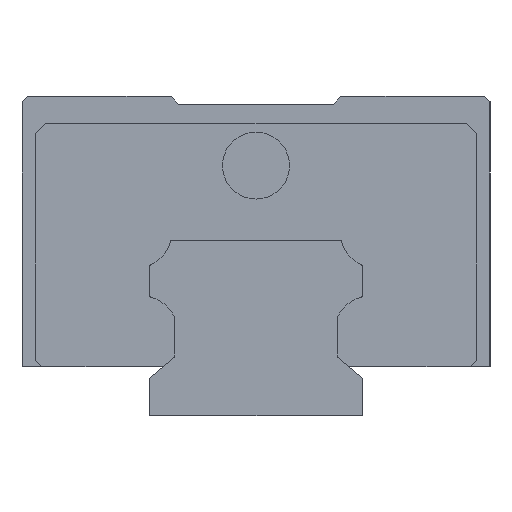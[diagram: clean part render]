
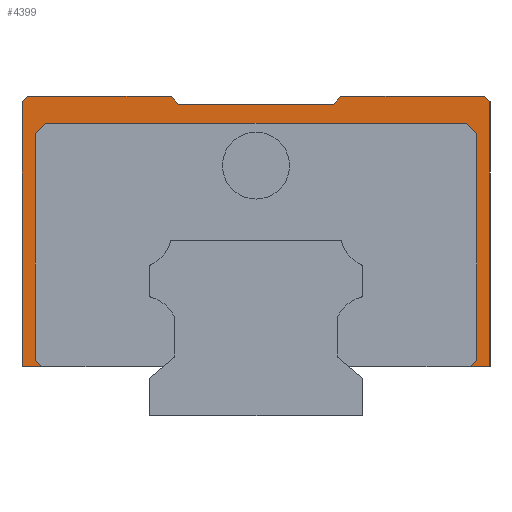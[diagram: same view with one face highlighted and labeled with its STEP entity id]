
A CAD part, left-side view. The second image highlights one B-rep face of the part: STEP entity #4399.
In plain terms, the highlighted planar face has unit normal (-1, 0, 0).
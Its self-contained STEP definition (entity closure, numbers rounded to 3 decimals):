
#124 = DIRECTION ( 'NONE',  ( 0., 1., 0. ) ) ;
#200 = VERTEX_POINT ( 'NONE', #16779 ) ;
#229 = EDGE_CURVE ( 'NONE', #6670, #1917, #14515, .T. ) ;
#322 = DIRECTION ( 'NONE',  ( 0., -0.707, 0.707 ) ) ;
#601 = EDGE_LOOP ( 'NONE', ( #8269, #6573, #3620, #10550, #2831, #867, #6719, #12214, #10202, #10435, #7963, #16190, #1478, #3635, #13454, #1068, #11840, #11712 ) ) ;
#768 = CARTESIAN_POINT ( 'NONE',  ( -39., 22., 4.6 ) ) ;
#823 = LINE ( 'NONE', #10128, #14748 ) ;
#859 = VECTOR ( 'NONE', #15611, 1000. ) ;
#867 = ORIENTED_EDGE ( 'NONE', *, *, #1002, .F. ) ;
#1002 = EDGE_CURVE ( 'NONE', #8223, #1917, #16275, .T. ) ;
#1068 = ORIENTED_EDGE ( 'NONE', *, *, #2108, .T. ) ;
#1089 = DIRECTION ( 'NONE',  ( 0., -1., 0. ) ) ;
#1117 = FACE_OUTER_BOUND ( 'NONE', #601, .T. ) ;
#1274 = DIRECTION ( 'NONE',  ( 0., -0.707, -0.707 ) ) ;
#1478 = ORIENTED_EDGE ( 'NONE', *, *, #3795, .F. ) ;
#1722 = DIRECTION ( 'NONE',  ( 0., 0., 1. ) ) ;
#1758 = CARTESIAN_POINT ( 'NONE',  ( -39., 22., 30. ) ) ;
#1881 = VERTEX_POINT ( 'NONE', #3126 ) ;
#1917 = VERTEX_POINT ( 'NONE', #3289 ) ;
#2108 = EDGE_CURVE ( 'NONE', #4734, #12921, #12150, .T. ) ;
#2136 = CARTESIAN_POINT ( 'NONE',  ( -39., 22., 30. ) ) ;
#2254 = EDGE_CURVE ( 'NONE', #4320, #11705, #10046, .T. ) ;
#2398 = VECTOR ( 'NONE', #7480, 1000. ) ;
#2831 = ORIENTED_EDGE ( 'NONE', *, *, #229, .T. ) ;
#3035 = DIRECTION ( 'NONE',  ( 0., 0.643, -0.766 ) ) ;
#3126 = CARTESIAN_POINT ( 'NONE',  ( -39., 21.5, 30. ) ) ;
#3249 = VECTOR ( 'NONE', #15703, 1000. ) ;
#3252 = LINE ( 'NONE', #4564, #8937 ) ;
#3289 = CARTESIAN_POINT ( 'NONE',  ( -39., -21.5, 30. ) ) ;
#3620 = ORIENTED_EDGE ( 'NONE', *, *, #16509, .F. ) ;
#3635 = ORIENTED_EDGE ( 'NONE', *, *, #16892, .T. ) ;
#3795 = EDGE_CURVE ( 'NONE', #13523, #4320, #4237, .T. ) ;
#3951 = LINE ( 'NONE', #10732, #11224 ) ;
#4024 = EDGE_CURVE ( 'NONE', #16532, #14875, #3951, .T. ) ;
#4237 = LINE ( 'NONE', #12059, #10113 ) ;
#4320 = VERTEX_POINT ( 'NONE', #768 ) ;
#4341 = VECTOR ( 'NONE', #11900, 1000. ) ;
#4399 = ADVANCED_FACE ( 'NONE', ( #1117 ), #12853, .F. ) ;
#4564 = CARTESIAN_POINT ( 'NONE',  ( -39., -20.75, 5.2 ) ) ;
#4734 = VERTEX_POINT ( 'NONE', #16927 ) ;
#5009 = LINE ( 'NONE', #10305, #859 ) ;
#5194 = LINE ( 'NONE', #10484, #13640 ) ;
#5461 = DIRECTION ( 'NONE',  ( 0., 1., 0. ) ) ;
#5509 = DIRECTION ( 'NONE',  ( 0., 0.707, 0.707 ) ) ;
#5970 = CARTESIAN_POINT ( 'NONE',  ( -39., -20.75, 5.2 ) ) ;
#6090 = LINE ( 'NONE', #16875, #2398 ) ;
#6130 = DIRECTION ( 'NONE',  ( 0., 0.643, 0.766 ) ) ;
#6342 = VERTEX_POINT ( 'NONE', #10142 ) ;
#6361 = VECTOR ( 'NONE', #322, 1000. ) ;
#6421 = CARTESIAN_POINT ( 'NONE',  ( -39., -22., 30. ) ) ;
#6573 = ORIENTED_EDGE ( 'NONE', *, *, #16700, .T. ) ;
#6670 = VERTEX_POINT ( 'NONE', #10116 ) ;
#6719 = ORIENTED_EDGE ( 'NONE', *, *, #8713, .T. ) ;
#6903 = VERTEX_POINT ( 'NONE', #9888 ) ;
#7480 = DIRECTION ( 'NONE',  ( 0., -1., 0. ) ) ;
#7702 = LINE ( 'NONE', #15614, #3249 ) ;
#7821 = CARTESIAN_POINT ( 'NONE',  ( -39., 22., 29.5 ) ) ;
#7963 = ORIENTED_EDGE ( 'NONE', *, *, #12118, .T. ) ;
#8223 = VERTEX_POINT ( 'NONE', #14457 ) ;
#8246 = CARTESIAN_POINT ( 'NONE',  ( -39., -22., 29.5 ) ) ;
#8269 = ORIENTED_EDGE ( 'NONE', *, *, #4024, .T. ) ;
#8421 = CARTESIAN_POINT ( 'NONE',  ( -39., -7.333, 29.25 ) ) ;
#8591 = VERTEX_POINT ( 'NONE', #8421 ) ;
#8691 = EDGE_CURVE ( 'NONE', #6670, #9020, #13466, .T. ) ;
#8713 = EDGE_CURVE ( 'NONE', #8223, #8591, #9638, .T. ) ;
#8825 = LINE ( 'NONE', #16744, #16571 ) ;
#8848 = DIRECTION ( 'NONE',  ( 1., 0., 0. ) ) ;
#8937 = VECTOR ( 'NONE', #14920, 1000. ) ;
#9020 = VERTEX_POINT ( 'NONE', #10758 ) ;
#9410 = CARTESIAN_POINT ( 'NONE',  ( -39., 20.15, 4.6 ) ) ;
#9638 = LINE ( 'NONE', #10688, #14768 ) ;
#9888 = CARTESIAN_POINT ( 'NONE',  ( -39., 7.963, 30. ) ) ;
#10046 = LINE ( 'NONE', #15195, #16323 ) ;
#10095 = CARTESIAN_POINT ( 'NONE',  ( -39., 20.15, 4.6 ) ) ;
#10113 = VECTOR ( 'NONE', #5461, 1000. ) ;
#10116 = CARTESIAN_POINT ( 'NONE',  ( -39., -22., 29.5 ) ) ;
#10128 = CARTESIAN_POINT ( 'NONE',  ( -39., 7.333, 29.25 ) ) ;
#10142 = CARTESIAN_POINT ( 'NONE',  ( -39., 7.333, 29.25 ) ) ;
#10155 = DIRECTION ( 'NONE',  ( 0., 1., 0. ) ) ;
#10202 = ORIENTED_EDGE ( 'NONE', *, *, #15114, .T. ) ;
#10305 = CARTESIAN_POINT ( 'NONE',  ( -39., 20.75, 5.2 ) ) ;
#10350 = CARTESIAN_POINT ( 'NONE',  ( -39., -19.75, 27.5 ) ) ;
#10435 = ORIENTED_EDGE ( 'NONE', *, *, #15140, .F. ) ;
#10460 = LINE ( 'NONE', #9410, #17006 ) ;
#10484 = CARTESIAN_POINT ( 'NONE',  ( -39., -19.75, 27.5 ) ) ;
#10550 = ORIENTED_EDGE ( 'NONE', *, *, #8691, .F. ) ;
#10688 = CARTESIAN_POINT ( 'NONE',  ( -39., -7.963, 30. ) ) ;
#10732 = CARTESIAN_POINT ( 'NONE',  ( -39., -20.75, 26.5 ) ) ;
#10758 = CARTESIAN_POINT ( 'NONE',  ( -39., -22., 4.6 ) ) ;
#11224 = VECTOR ( 'NONE', #15952, 1000. ) ;
#11591 = EDGE_CURVE ( 'NONE', #12921, #15316, #6090, .T. ) ;
#11705 = VERTEX_POINT ( 'NONE', #7821 ) ;
#11712 = ORIENTED_EDGE ( 'NONE', *, *, #14389, .T. ) ;
#11788 = LINE ( 'NONE', #15356, #15324 ) ;
#11840 = ORIENTED_EDGE ( 'NONE', *, *, #11591, .T. ) ;
#11870 = CARTESIAN_POINT ( 'NONE',  ( -39., -20.75, 26.5 ) ) ;
#11900 = DIRECTION ( 'NONE',  ( 0., 0.707, 0.707 ) ) ;
#12055 = EDGE_CURVE ( 'NONE', #8591, #6342, #8825, .T. ) ;
#12059 = CARTESIAN_POINT ( 'NONE',  ( -39., 9., 4.6 ) ) ;
#12118 = EDGE_CURVE ( 'NONE', #1881, #11705, #7702, .T. ) ;
#12150 = LINE ( 'NONE', #16236, #6361 ) ;
#12214 = ORIENTED_EDGE ( 'NONE', *, *, #12055, .T. ) ;
#12658 = CARTESIAN_POINT ( 'NONE',  ( -39., 20.75, 5.2 ) ) ;
#12738 = DIRECTION ( 'NONE',  ( 0., 1., 0. ) ) ;
#12795 = VECTOR ( 'NONE', #1089, 1000. ) ;
#12853 = PLANE ( 'NONE',  #13164 ) ;
#12921 = VERTEX_POINT ( 'NONE', #16261 ) ;
#12998 = LINE ( 'NONE', #2136, #12795 ) ;
#13164 = AXIS2_PLACEMENT_3D ( 'NONE', #6421, #8848, #10155 ) ;
#13454 = ORIENTED_EDGE ( 'NONE', *, *, #15119, .T. ) ;
#13466 = LINE ( 'NONE', #16167, #15877 ) ;
#13523 = VERTEX_POINT ( 'NONE', #10095 ) ;
#13607 = VECTOR ( 'NONE', #14721, 1000. ) ;
#13640 = VECTOR ( 'NONE', #1274, 1000. ) ;
#14389 = EDGE_CURVE ( 'NONE', #15316, #16532, #5194, .T. ) ;
#14457 = CARTESIAN_POINT ( 'NONE',  ( -39., -7.963, 30. ) ) ;
#14515 = LINE ( 'NONE', #8246, #4341 ) ;
#14721 = DIRECTION ( 'NONE',  ( 0., -1., 0. ) ) ;
#14748 = VECTOR ( 'NONE', #6130, 1000. ) ;
#14768 = VECTOR ( 'NONE', #3035, 1000. ) ;
#14869 = DIRECTION ( 'NONE',  ( 0., 0., -1. ) ) ;
#14875 = VERTEX_POINT ( 'NONE', #5970 ) ;
#14920 = DIRECTION ( 'NONE',  ( 0., 0.707, -0.707 ) ) ;
#15114 = EDGE_CURVE ( 'NONE', #6342, #6903, #823, .T. ) ;
#15119 = EDGE_CURVE ( 'NONE', #16401, #4734, #5009, .T. ) ;
#15140 = EDGE_CURVE ( 'NONE', #1881, #6903, #12998, .T. ) ;
#15195 = CARTESIAN_POINT ( 'NONE',  ( -39., 22., 4.6 ) ) ;
#15316 = VERTEX_POINT ( 'NONE', #10350 ) ;
#15324 = VECTOR ( 'NONE', #124, 1000. ) ;
#15356 = CARTESIAN_POINT ( 'NONE',  ( -39., -22., 4.6 ) ) ;
#15611 = DIRECTION ( 'NONE',  ( 0., 0., 1. ) ) ;
#15614 = CARTESIAN_POINT ( 'NONE',  ( -39., 21.5, 30. ) ) ;
#15703 = DIRECTION ( 'NONE',  ( 0., 0.707, -0.707 ) ) ;
#15877 = VECTOR ( 'NONE', #14869, 1000. ) ;
#15952 = DIRECTION ( 'NONE',  ( 0., 0., -1. ) ) ;
#16167 = CARTESIAN_POINT ( 'NONE',  ( -39., -22., 30. ) ) ;
#16190 = ORIENTED_EDGE ( 'NONE', *, *, #2254, .F. ) ;
#16236 = CARTESIAN_POINT ( 'NONE',  ( -39., 20.75, 26.5 ) ) ;
#16261 = CARTESIAN_POINT ( 'NONE',  ( -39., 19.75, 27.5 ) ) ;
#16275 = LINE ( 'NONE', #1758, #13607 ) ;
#16323 = VECTOR ( 'NONE', #1722, 1000. ) ;
#16401 = VERTEX_POINT ( 'NONE', #12658 ) ;
#16509 = EDGE_CURVE ( 'NONE', #9020, #200, #11788, .T. ) ;
#16532 = VERTEX_POINT ( 'NONE', #11870 ) ;
#16571 = VECTOR ( 'NONE', #12738, 1000. ) ;
#16700 = EDGE_CURVE ( 'NONE', #14875, #200, #3252, .T. ) ;
#16744 = CARTESIAN_POINT ( 'NONE',  ( -39., -7.333, 29.25 ) ) ;
#16779 = CARTESIAN_POINT ( 'NONE',  ( -39., -20.15, 4.6 ) ) ;
#16875 = CARTESIAN_POINT ( 'NONE',  ( -39., 19.75, 27.5 ) ) ;
#16892 = EDGE_CURVE ( 'NONE', #13523, #16401, #10460, .T. ) ;
#16927 = CARTESIAN_POINT ( 'NONE',  ( -39., 20.75, 26.5 ) ) ;
#17006 = VECTOR ( 'NONE', #5509, 1000. ) ;
